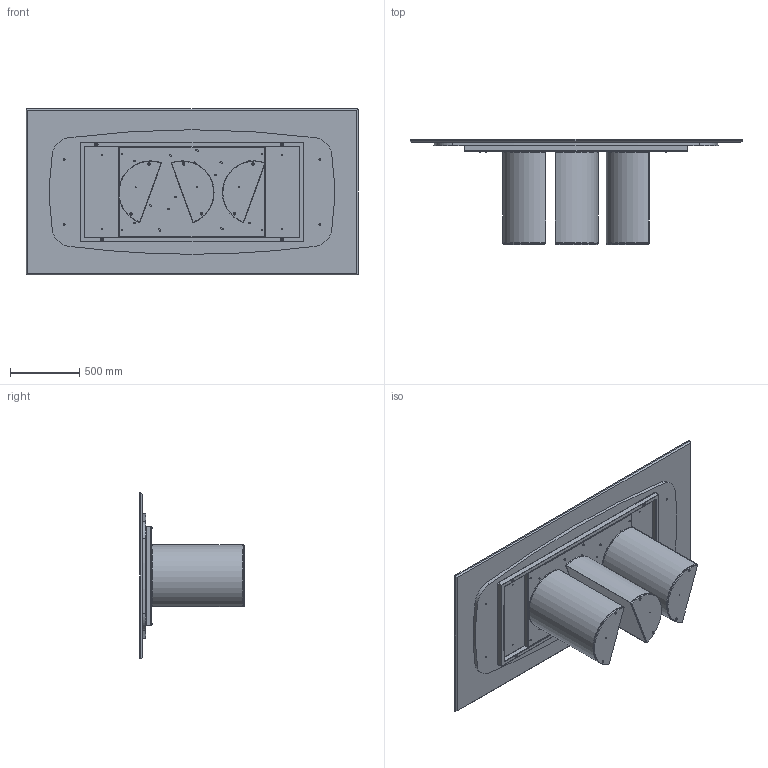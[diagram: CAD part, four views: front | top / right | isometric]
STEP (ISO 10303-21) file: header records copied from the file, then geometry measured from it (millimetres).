
FILE_DESCRIPTION (( 'STEP AP203' ), '1' );
FILE_NAME ('PL23M.STEP', '2024-08-07T13:52:37', ( '' ), ( '' ), 'SwSTEP 2.0', 'SolidWorks 2022', '' );
FILE_SCHEMA (( 'CONFIG_CONTROL_DESIGN' ));
Length unit declared in the file: millimetre
Products named in the file (16): TTAV0601-00-TELAIO X TAVOLI PLAI ONDA NOA 240cm_TTAV06; COLLO TELAIO UNIVERSALE TTAV0601 CON FERRAMENTA_FERRAMENTA MTG TOP LEGNO-MARMO-KING; M2X-00-Piani rettangolari marmo_2400*1200; PLA000000BAS-00-PLAI BASE GREZZA; PL23M; TRUXXXXXX-00-NOBILITATO GR CON SUPP TRUCIOLARE SP. 25_TRU00007_2100x900; TTAV0601_01-00-STRUTTURA X TAVOLI PLAI ONDA NOA 240; Assieme Basamento PLAI_Basamento per tavoli; M8xXXmm_hex_M8X60mm; M8xXXmm_M8x20mm; M8xXXmm_M8x55mm; M2XMXX-00-Piani rettangolari in marmo_2400x1200; PLA000000ZOC-01-PLAI ZOCCOLO DELLA BASE; M8xXXmm_hex_M8X20mm; rondella M8_8X24; TTAV0601_02-00-VASSOIO TAVOLI PLAI ONDA NOA 240
Assembly tree (34 placements, depth 4):
  PL23M
    COLLO TELAIO UNIVERSALE TTAV0601 CON FERRAMENTA_FERRAMENTA MTG TOP LEGNO-MARMO-KING
      TTAV0601-00-TELAIO X TAVOLI PLAI ONDA NOA 240cm_TTAV06
        TTAV0601_02-00-VASSOIO TAVOLI PLAI ONDA NOA 240
        TTAV0601_01-00-STRUTTURA X TAVOLI PLAI ONDA NOA 240
      rondella M8_8X24  x4
      M8xXXmm_M8x55mm  x4
    Assieme Basamento PLAI_Basamento per tavoli  x3
      PLA000000BAS-00-PLAI BASE GREZZA
      PLA000000ZOC-01-PLAI ZOCCOLO DELLA BASE
      M8xXXmm_hex_M8X60mm
      M8xXXmm_hex_M8X20mm
    rondella M8_8X24  x6
    M8xXXmm_M8x20mm  x6
    M2XMXX-00-Piani rettangolari in marmo_2400x1200
      M2X-00-Piani rettangolari marmo_2400*1200
      TRUXXXXXX-00-NOBILITATO GR CON SUPP TRUCIOLARE SP. 25_TRU00007_2100x900
Bounding box: 2400 x 759 x 1200 mm (x, y, z)
Volume: 113017612.6 mm3; surface area: 18088519.9 mm2
Topology: 45 solids, 45 shells, 1339 faces, 3047 edges, 1757 vertices
Faces by surface type: plane 517, cylinder 392, cone 290, torus 132, sphere 8
Entity records: 22527 total; most frequent: DIRECTION 3741, CARTESIAN_POINT 3558, ORIENTED_EDGE 3282, EDGE_CURVE 1641, AXIS2_PLACEMENT_3D 1408, VERTEX_POINT 989, LINE 925, VECTOR 925
